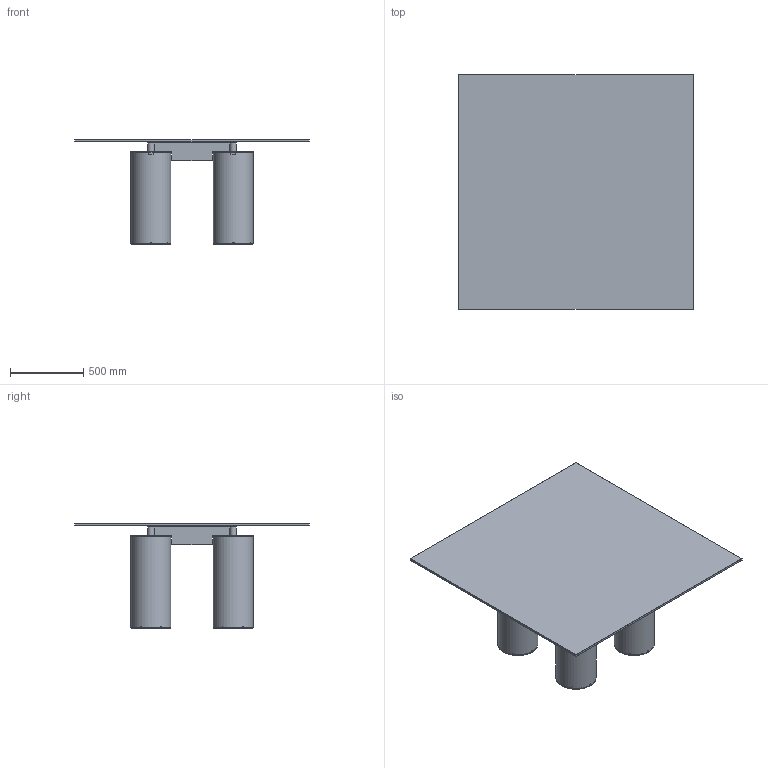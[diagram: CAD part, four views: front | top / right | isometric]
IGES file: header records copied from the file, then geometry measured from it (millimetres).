
Start section: SolidWorks IGES file using NURBS representation for surfaces
Global section: file name: \\fs\Gruppi\Tecnico\UFFICIO TECNICO\PROGETTI in SVILUPPO\2021\SERENISSIMO\3D\160X160\SERENISSIMO - 160X160.igs; native system: Rhinoceros ( May  7 2019 ); preprocessor: Trout Lake IGES 012 May  7 2019; date: 210715.140847; units: millimetre
Bounding box: 1600 x 1600 x 714 mm (x, y, z)
Surface area: 10914888.8 mm2 (no closed solid volume)
Topology: 0 solids, 0 shells, 1959 faces, 10609 edges, 10524 vertices
Faces by surface type: bspline 1959
